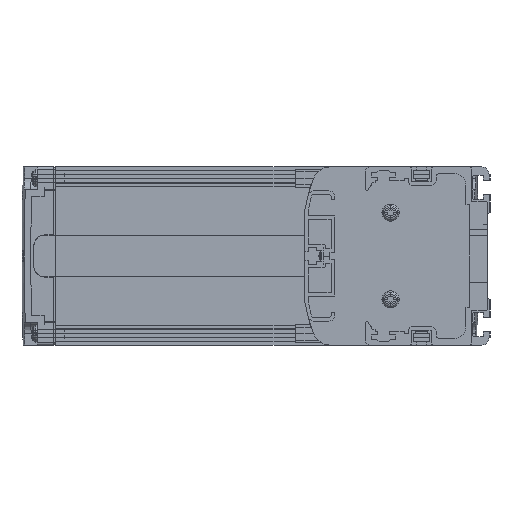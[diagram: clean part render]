
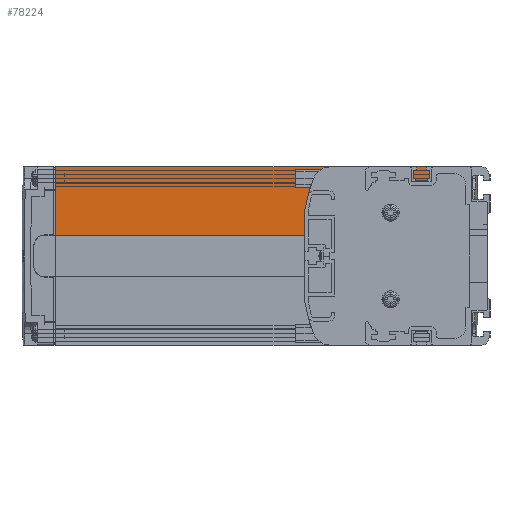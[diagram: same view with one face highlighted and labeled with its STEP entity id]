
A CAD part, left-side view. The second image highlights one B-rep face of the part: STEP entity #78224.
In plain terms, the highlighted planar face has unit normal (-1, 0, 0).
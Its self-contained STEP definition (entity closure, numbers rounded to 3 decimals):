
#76165=DIRECTION('',(0.,-1.,0.));
#76166=VECTOR('',#76165,51.);
#76167=CARTESIAN_POINT('',(3.,71.,27.));
#76168=LINE('',#76167,#76166);
#76814=DIRECTION('',(0.,-1.,0.));
#76815=VECTOR('',#76814,170.);
#76816=CARTESIAN_POINT('',(3.,190.,39.));
#76817=LINE('',#76816,#76815);
#76832=DIRECTION('',(0.,0.,-1.));
#76833=VECTOR('',#76832,29.9);
#76834=CARTESIAN_POINT('',(3.,190.,39.));
#76835=LINE('',#76834,#76833);
#76836=DIRECTION('',(0.,0.,1.));
#76837=VECTOR('',#76836,12.);
#76838=CARTESIAN_POINT('',(3.,20.,27.));
#76839=LINE('',#76838,#76837);
#76840=DIRECTION('',(0.,0.,1.));
#76841=VECTOR('',#76840,17.9);
#76842=CARTESIAN_POINT('',(3.,71.,9.1));
#76843=LINE('',#76842,#76841);
#76950=DIRECTION('',(0.,-1.,0.));
#76951=VECTOR('',#76950,119.);
#76952=CARTESIAN_POINT('',(3.,190.,9.1));
#76953=LINE('',#76952,#76951);
#77037=CARTESIAN_POINT('',(3.,20.,27.));
#77039=VERTEX_POINT('',#77037);
#77131=CARTESIAN_POINT('',(3.,20.,39.));
#77132=VERTEX_POINT('',#77131);
#77205=CARTESIAN_POINT('',(3.,190.,39.));
#77206=VERTEX_POINT('',#77205);
#77207=CARTESIAN_POINT('',(3.,190.,9.1));
#77208=VERTEX_POINT('',#77207);
#77269=CARTESIAN_POINT('',(3.,71.,27.));
#77270=VERTEX_POINT('',#77269);
#77271=CARTESIAN_POINT('',(3.,71.,9.1));
#77272=VERTEX_POINT('',#77271);
#78209=CARTESIAN_POINT('',(3.,105.,24.05));
#78210=DIRECTION('',(1.,0.,0.));
#78211=DIRECTION('',(0.,0.,1.));
#78212=AXIS2_PLACEMENT_3D('',#78209,#78210,#78211);
#78213=PLANE('',#78212);
#78214=ORIENTED_EDGE('',*,*,#77455,.F.);
#78216=ORIENTED_EDGE('',*,*,#78215,.F.);
#78218=ORIENTED_EDGE('',*,*,#78217,.F.);
#78219=ORIENTED_EDGE('',*,*,#77783,.F.);
#78220=ORIENTED_EDGE('',*,*,#78197,.T.);
#78221=ORIENTED_EDGE('',*,*,#77324,.F.);
#78222=EDGE_LOOP('',(#78214,#78216,#78218,#78219,#78220,#78221));
#78223=FACE_OUTER_BOUND('',#78222,.F.);
#78224=ADVANCED_FACE('',(#78223),#78213,.F.);
#77324=EDGE_CURVE('',#77039,#77132,#76839,.T.);
#77455=EDGE_CURVE('',#77270,#77039,#76168,.T.);
#77783=EDGE_CURVE('',#77206,#77208,#76835,.T.);
#78197=EDGE_CURVE('',#77206,#77132,#76817,.T.);
#78215=EDGE_CURVE('',#77272,#77270,#76843,.T.);
#78217=EDGE_CURVE('',#77208,#77272,#76953,.T.);
